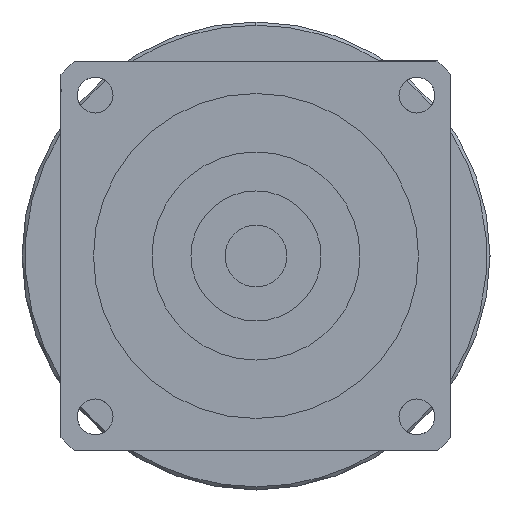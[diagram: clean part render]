
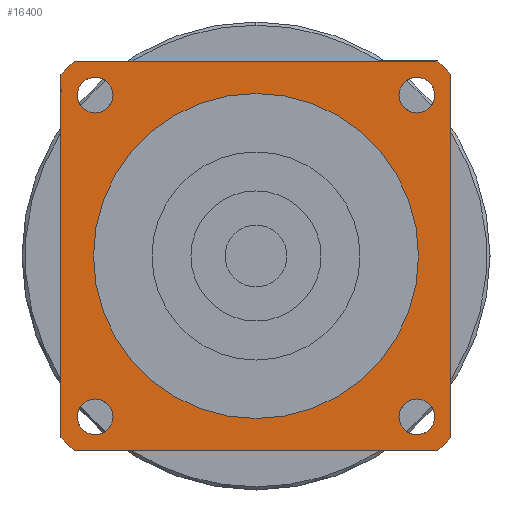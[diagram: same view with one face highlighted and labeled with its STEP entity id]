
A CAD part, left-side view. The second image highlights one B-rep face of the part: STEP entity #16400.
In plain terms, the highlighted planar face has unit normal (-1, 0, 0) as drawn and (0, 0, -1) by its records, which use the part's own axes.
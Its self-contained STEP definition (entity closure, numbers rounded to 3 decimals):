
#14640=CARTESIAN_POINT('',(-24.749,27.499,-91.5));
#14650=VERTEX_POINT('',#14640);
#14700=CARTESIAN_POINT('',(-24.749,24.749,-91.5));
#14710=DIRECTION('',(0.,0.,-1.));
#14720=DIRECTION('',(-1.,0.,0.));
#14730=AXIS2_PLACEMENT_3D('',#14700,#14710,#14720);
#14740=CIRCLE('',#14730,2.75);
#14750=CARTESIAN_POINT('',(-24.749,21.999,-91.5));
#14760=VERTEX_POINT('',#14750);
#14770=EDGE_CURVE('',#14760,#14650,#14740,.T.);
#14960=CARTESIAN_POINT('',(-30.,30.,-91.5));
#14970=DIRECTION('',(0.,0.,1.));
#14980=DIRECTION('',(-1.,0.,0.));
#14990=AXIS2_PLACEMENT_3D('',#14960,#14970,#14980);
#15000=PLANE('',#14990);
#15010=CARTESIAN_POINT('',(24.749,-24.749,-91.5));
#15020=DIRECTION('',(0.,0.,-1.));
#15030=DIRECTION('',(1.,0.,0.));
#15040=AXIS2_PLACEMENT_3D('',#15010,#15020,#15030);
#15050=CIRCLE('',#15040,2.75);
#15060=CARTESIAN_POINT('',(24.749,-27.499,-91.5));
#15070=VERTEX_POINT('',#15060);
#15080=CARTESIAN_POINT('',(24.749,-21.999,-91.5));
#15090=VERTEX_POINT('',#15080);
#15100=EDGE_CURVE('',#15070,#15090,#15050,.T.);
#15110=ORIENTED_EDGE('',*,*,#15100,.F.);
#15120=EDGE_CURVE('',#15090,#15070,#15050,.T.);
#15130=ORIENTED_EDGE('',*,*,#15120,.F.);
#15140=EDGE_LOOP('',(#15130,#15110));
#15150=FACE_BOUND('',#15140,.T.);
#15160=CARTESIAN_POINT('',(24.749,24.749,-91.5));
#15170=DIRECTION('',(0.,0.,-1.));
#15180=DIRECTION('',(0.,1.,0.));
#15190=AXIS2_PLACEMENT_3D('',#15160,#15170,#15180);
#15200=CIRCLE('',#15190,2.75);
#15210=CARTESIAN_POINT('',(21.999,24.749,-91.5));
#15220=VERTEX_POINT('',#15210);
#15230=CARTESIAN_POINT('',(27.499,24.749,-91.5));
#15240=VERTEX_POINT('',#15230);
#15250=EDGE_CURVE('',#15220,#15240,#15200,.T.);
#15260=ORIENTED_EDGE('',*,*,#15250,.F.);
#15270=EDGE_CURVE('',#15240,#15220,#15200,.T.);
#15280=ORIENTED_EDGE('',*,*,#15270,.F.);
#15290=EDGE_LOOP('',(#15280,#15260));
#15300=FACE_BOUND('',#15290,.T.);
#15310=EDGE_CURVE('',#14650,#14760,#14740,.T.);
#15320=ORIENTED_EDGE('',*,*,#15310,.F.);
#15330=ORIENTED_EDGE('',*,*,#14770,.F.);
#15340=EDGE_LOOP('',(#15330,#15320));
#15350=FACE_BOUND('',#15340,.T.);
#15360=CARTESIAN_POINT('',(-24.749,-24.749,-91.5));
#15370=DIRECTION('',(0.,0.,-1.));
#15380=DIRECTION('',(0.,-1.,0.));
#15390=AXIS2_PLACEMENT_3D('',#15360,#15370,#15380);
#15400=CIRCLE('',#15390,2.75);
#15410=CARTESIAN_POINT('',(-27.499,-24.749,-91.5));
#15420=VERTEX_POINT('',#15410);
#15430=CARTESIAN_POINT('',(-21.999,-24.749,-91.5));
#15440=VERTEX_POINT('',#15430);
#15450=EDGE_CURVE('',#15420,#15440,#15400,.T.);
#15460=ORIENTED_EDGE('',*,*,#15450,.F.);
#15470=EDGE_CURVE('',#15440,#15420,#15400,.T.);
#15480=ORIENTED_EDGE('',*,*,#15470,.F.);
#15490=EDGE_LOOP('',(#15480,#15460));
#15500=FACE_BOUND('',#15490,.T.);
#15510=CARTESIAN_POINT('',(0.,0.,
-91.5));
#15520=DIRECTION('',(0.,0.,1.));
#15530=DIRECTION('',(0.,-1.,0.));
#15540=AXIS2_PLACEMENT_3D('',#15510,#15520,#15530);
#15550=CIRCLE('',#15540,41.);
#15560=CARTESIAN_POINT('',(-30.,-27.946,-91.5));
#15570=VERTEX_POINT('',#15560);
#15580=CARTESIAN_POINT('',(-27.946,-30.,-91.5));
#15590=VERTEX_POINT('',#15580);
#15600=EDGE_CURVE('',#15570,#15590,#15550,.T.);
#15610=ORIENTED_EDGE('',*,*,#15600,.F.);
#15620=CARTESIAN_POINT('',(-30.,-30.,-91.5));
#15630=DIRECTION('',(1.,0.,0.));
#15640=VECTOR('',#15630,1000.);
#15650=LINE('',#15620,#15640);
#15660=CARTESIAN_POINT('',(27.946,-30.,-91.5));
#15670=VERTEX_POINT('',#15660);
#15680=EDGE_CURVE('',#15590,#15670,#15650,.T.);
#15690=ORIENTED_EDGE('',*,*,#15680,.F.);
#15700=CARTESIAN_POINT('',(0.,0.,
-91.5));
#15710=DIRECTION('',(0.,0.,1.));
#15720=DIRECTION('',(0.,-1.,0.));
#15730=AXIS2_PLACEMENT_3D('',#15700,#15710,#15720);
#15740=CIRCLE('',#15730,41.);
#15750=CARTESIAN_POINT('',(30.,-27.946,-91.5));
#15760=VERTEX_POINT('',#15750);
#15770=EDGE_CURVE('',#15670,#15760,#15740,.T.);
#15780=ORIENTED_EDGE('',*,*,#15770,.F.);
#15790=CARTESIAN_POINT('',(30.,-30.,-91.5));
#15800=DIRECTION('',(0.,1.,0.));
#15810=VECTOR('',#15800,1000.);
#15820=LINE('',#15790,#15810);
#15830=CARTESIAN_POINT('',(30.,27.946,-91.5));
#15840=VERTEX_POINT('',#15830);
#15850=EDGE_CURVE('',#15760,#15840,#15820,.T.);
#15860=ORIENTED_EDGE('',*,*,#15850,.F.);
#15870=CARTESIAN_POINT('',(0.,0.,
-91.5));
#15880=DIRECTION('',(0.,0.,1.));
#15890=DIRECTION('',(0.,-1.,0.));
#15900=AXIS2_PLACEMENT_3D('',#15870,#15880,#15890);
#15910=CIRCLE('',#15900,41.);
#15920=CARTESIAN_POINT('',(27.946,30.,-91.5));
#15930=VERTEX_POINT('',#15920);
#15940=EDGE_CURVE('',#15840,#15930,#15910,.T.);
#15950=ORIENTED_EDGE('',*,*,#15940,.F.);
#15960=CARTESIAN_POINT('',(30.,30.,-91.5));
#15970=DIRECTION('',(-1.,0.,0.));
#15980=VECTOR('',#15970,1000.);
#15990=LINE('',#15960,#15980);
#16000=CARTESIAN_POINT('',(-27.946,30.,-91.5));
#16010=VERTEX_POINT('',#16000);
#16020=EDGE_CURVE('',#15930,#16010,#15990,.T.);
#16030=ORIENTED_EDGE('',*,*,#16020,.F.);
#16040=CARTESIAN_POINT('',(0.,0.,
-91.5));
#16050=DIRECTION('',(0.,0.,1.));
#16060=DIRECTION('',(0.,-1.,0.));
#16070=AXIS2_PLACEMENT_3D('',#16040,#16050,#16060);
#16080=CIRCLE('',#16070,41.);
#16090=CARTESIAN_POINT('',(-30.,27.946,-91.5));
#16100=VERTEX_POINT('',#16090);
#16110=EDGE_CURVE('',#16010,#16100,#16080,.T.);
#16120=ORIENTED_EDGE('',*,*,#16110,.F.);
#16130=CARTESIAN_POINT('',(-30.,30.,-91.5));
#16140=DIRECTION('',(0.,-1.,0.));
#16150=VECTOR('',#16140,1000.);
#16160=LINE('',#16130,#16150);
#16170=EDGE_CURVE('',#16100,#15570,#16160,.T.);
#16180=ORIENTED_EDGE('',*,*,#16170,.F.);
#16190=EDGE_LOOP('',(#16180,#16120,#16030,#15950,#15860,#15780,#15690,
#15610));
#16200=FACE_OUTER_BOUND('',#16190,.T.);
#16210=CARTESIAN_POINT('',(0.,0.,
-91.5));
#16220=DIRECTION('',(0.,0.,1.));
#16230=DIRECTION('',(0.,-1.,0.));
#16240=AXIS2_PLACEMENT_3D('',#16210,#16220,#16230);
#16250=CIRCLE('',#16240,25.);
#16260=CARTESIAN_POINT('',(25.,0.,-91.5));
#16270=VERTEX_POINT('',#16260);
#16280=CARTESIAN_POINT('',(-25.,0.,-91.5));
#16290=VERTEX_POINT('',#16280);
#16300=EDGE_CURVE('',#16270,#16290,#16250,.T.);
#16310=ORIENTED_EDGE('',*,*,#16300,.T.);
#16320=CARTESIAN_POINT('',(0.,-25.,-91.5));
#16330=VERTEX_POINT('',#16320);
#16340=EDGE_CURVE('',#16330,#16270,#16250,.T.);
#16350=ORIENTED_EDGE('',*,*,#16340,.T.);
#16360=EDGE_CURVE('',#16290,#16330,#16250,.T.);
#16370=ORIENTED_EDGE('',*,*,#16360,.T.);
#16380=EDGE_LOOP('',(#16370,#16350,#16310));
#16390=FACE_BOUND('',#16380,.T.);
#16400=ADVANCED_FACE('',(#15150,#15300,#15350,#15500,#16200,#16390),
#15000,.F.);
